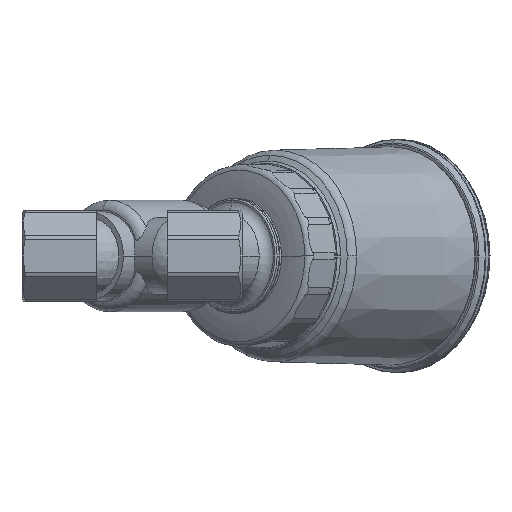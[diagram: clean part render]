
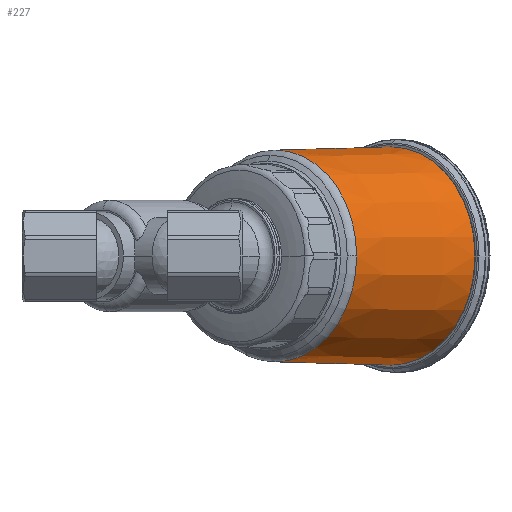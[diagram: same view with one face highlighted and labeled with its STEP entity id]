
A CAD part, front view. The second image highlights one B-rep face of the part: STEP entity #227.
In plain terms, the highlighted conical face has half-angle 1 degrees and reference radius 31.749 mm.
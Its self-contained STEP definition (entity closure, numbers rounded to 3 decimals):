
#227=ADVANCED_FACE('',(#619),#620,.T.);
#619=FACE_OUTER_BOUND('',#1093,.T.);
#620=CONICAL_SURFACE('',#1094,31.749,0.017);
#1093=EDGE_LOOP('',(#2555,#2556,#2557,#2558,#2559));
#1094=AXIS2_PLACEMENT_3D('',#2560,#2561,#2562);
#2555=ORIENTED_EDGE('',*,*,#3381,.T.);
#2556=ORIENTED_EDGE('',*,*,#3734,.F.);
#2557=ORIENTED_EDGE('',*,*,#3386,.T.);
#2558=ORIENTED_EDGE('',*,*,#3735,.T.);
#2559=ORIENTED_EDGE('',*,*,#3269,.T.);
#2560=CARTESIAN_POINT('',(92.03,85.842,0.0));
#2561=DIRECTION('',(0.643,0.766,0.0));
#2562=DIRECTION('',(0.,0.,-1.0));
#3269=EDGE_CURVE('',#3918,#3930,#3932,.T.);
#3381=EDGE_CURVE('',#3930,#3909,#4141,.T.);
#3386=EDGE_CURVE('',#3912,#4148,#4150,.T.);
#3734=EDGE_CURVE('',#3912,#3909,#4722,.T.);
#3735=EDGE_CURVE('',#4148,#3918,#4723,.T.);
#3909=VERTEX_POINT('',#4988);
#3912=VERTEX_POINT('',#4992);
#3918=VERTEX_POINT('',#4999);
#3930=VERTEX_POINT('',#5036);
#3932=CIRCLE('',#5038,31.284);
#4141=LINE('',#5575,#5576);
#4148=VERTEX_POINT('',#5606);
#4150=LINE('',#5608,#5609);
#4722=CIRCLE('',#6884,32.214);
#4723=CIRCLE('',#6885,31.284);
#4988=CARTESIAN_POINT('',(109.155,106.25,-32.214));
#4992=CARTESIAN_POINT('',(109.155,106.25,32.214));
#4999=CARTESIAN_POINT('',(98.87,45.325,0.));
#5036=CARTESIAN_POINT('',(74.905,65.434,-31.284));
#5038=AXIS2_PLACEMENT_3D('',#7960,#7961,#7962);
#5575=CARTESIAN_POINT('',(92.03,85.842,-31.749));
#5576=VECTOR('',#8214,1.0);
#5606=CARTESIAN_POINT('',(74.905,65.434,31.284));
#5608=CARTESIAN_POINT('',(92.03,85.842,31.749));
#5609=VECTOR('',#8218,1.0);
#6884=AXIS2_PLACEMENT_3D('',#8807,#8808,#8809);
#6885=AXIS2_PLACEMENT_3D('',#8810,#8811,#8812);
#7960=CARTESIAN_POINT('',(74.905,65.434,0.0));
#7961=DIRECTION('',(0.643,0.766,0.));
#7962=DIRECTION('',(0.,0.,-1.0));
#8214=DIRECTION('',(0.643,0.766,-0.017));
#8218=DIRECTION('',(-0.643,-0.766,-0.017));
#8807=CARTESIAN_POINT('',(109.155,106.25,0.0));
#8808=DIRECTION('',(0.643,0.766,0.0));
#8809=DIRECTION('',(0.,0.,-1.0));
#8810=CARTESIAN_POINT('',(74.905,65.434,0.0));
#8811=DIRECTION('',(0.643,0.766,0.));
#8812=DIRECTION('',(0.,0.,-1.0));
